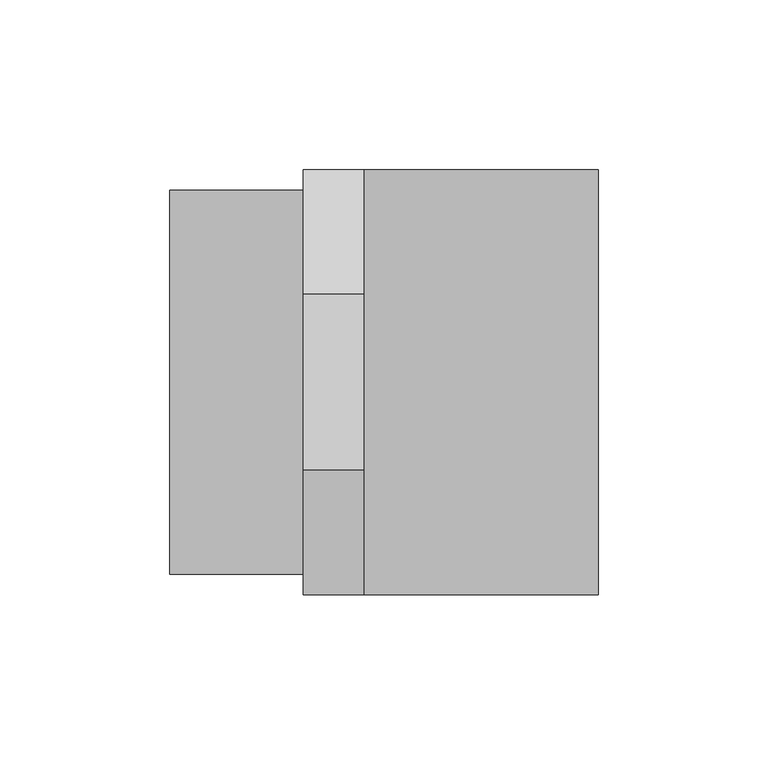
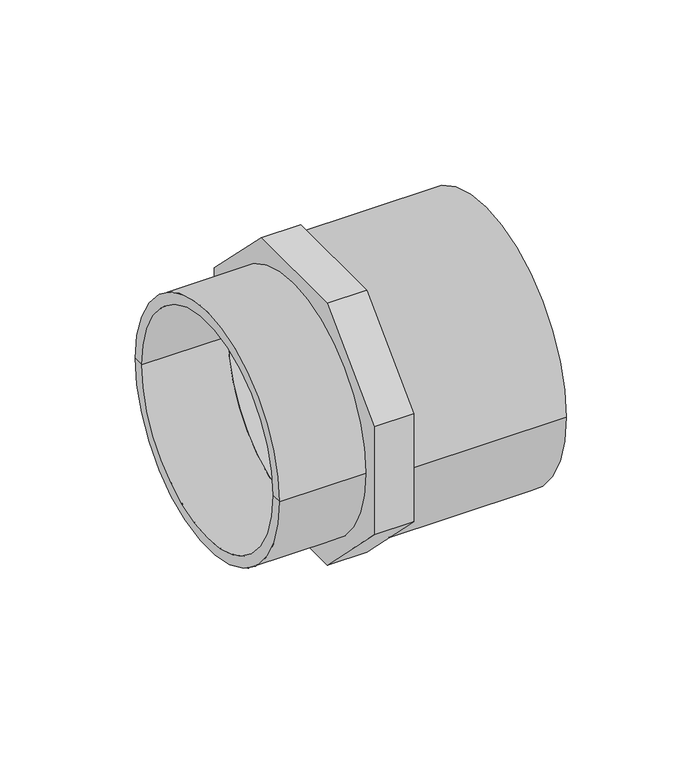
"""IFC4 building model written with IfcOpenShell, lengths in millimetres: pipe fitting geometry, Durapipe_PipeFitting_PVC_MaleThreadedAdaptors : 125 x 110 x G4."""

import ifcopenshell
import ifcopenshell.guid

model = None  # the IFC model being written
_history = None  # IfcOwnerHistory: only IFC2X3 demands one
_inside = {}  # id of a spatial element -> (the spatial element, [elements in it])
_under = {}  # id of a project, library or spatial element -> (it, [spatial elements below it])
_declared = {}  # id of a project -> (the project, [libraries it declares])
_typed = {}  # id of a type object -> (the type object, [elements of that type])
_made_of = {}  # id of a material, layer set ... -> (it, [elements and type objects made of it])


def new_model(schema):
    """Start an empty IFC model of exactly this schema.

    Asked for "IFC4X3", IfcOpenShell would pick the latest addendum, in which some entities
    have other attributes; the version numbers below select the first issue.
    IFC2X3 requires an IfcOwnerHistory on every rooted entity: one is made here for all.
    """
    global model, _history
    if schema == "IFC4X3":
        model = ifcopenshell.file(schema_version=(4, 3, 0, 0))
    else:
        model = ifcopenshell.file(schema=schema)
    _inside.clear()
    _under.clear()
    _declared.clear()
    _typed.clear()
    _made_of.clear()
    _history = None
    if model.schema == "IFC2X3":
        org = make("IfcOrganization", Name="unknown")
        user = make(
            "IfcPersonAndOrganization",
            ThePerson=make("IfcPerson", FamilyName="unknown"),
            TheOrganization=org,
        )
        app = make(
            "IfcApplication",
            ApplicationDeveloper=org,
            Version="unknown",
            ApplicationFullName="unknown",
            ApplicationIdentifier="unknown",
        )
        _history = make(
            "IfcOwnerHistory",
            OwningUser=user,
            OwningApplication=app,
            ChangeAction="ADDED",
            CreationDate=0,
        )
    return model


def make(cls, **values):
    """One entity of the class cls with the attributes given. An attribute that is None is left unset."""
    return model.create_entity(
        cls, **{name: value for name, value in values.items() if value is not None}
    )


def rooted(cls, **values):
    """An entity with a GlobalId (a new one), such as an element, a storey or a relation."""
    return make(cls, GlobalId=ifcopenshell.guid.new(), OwnerHistory=_history, **values)


def si_unit(unit_type, name, prefix=None):
    """IfcSIUnit, for example si_unit("LENGTHUNIT", "METRE", prefix="MILLI")."""
    return make("IfcSIUnit", UnitType=unit_type, Prefix=prefix, Name=name)


def assignment(units):
    """IfcUnitAssignment: the units of a project."""
    return None if units is None else make("IfcUnitAssignment", Units=units)


def point(xyz):
    """IfcCartesianPoint."""
    return None if xyz is None else make("IfcCartesianPoint", Coordinates=xyz)


def direction(xyz):
    """IfcDirection."""
    return None if xyz is None else make("IfcDirection", DirectionRatios=xyz)


def frame(location, z_axis=None, x_axis=None):
    """IfcAxis2Placement3D, a coordinate frame: its origin and axes. An axis left out is left unset."""
    return make(
        "IfcAxis2Placement3D",
        Location=point(location),
        Axis=direction(z_axis),
        RefDirection=direction(x_axis),
    )


def frame_2d(location, x_axis=None):
    """IfcAxis2Placement2D, a coordinate frame in the plane: its origin and x axis."""
    return make(
        "IfcAxis2Placement2D", Location=point(location), RefDirection=direction(x_axis)
    )


def origin():
    """The frame at (0, 0, 0) with its axes left unset."""
    return frame((0.0, 0.0, 0.0))


def origin_2d():
    """The frame at (0, 0) in the plane with its x axis left unset."""
    return frame_2d((0.0, 0.0))


def place(relative_to, where):
    """IfcLocalPlacement: puts the frame where relative to a parent placement (None: the world)."""
    return make(
        "IfcLocalPlacement", PlacementRelTo=relative_to, RelativePlacement=where
    )


def context(
    kind, dimensions, precision=None, world=None, true_north=None, identifier=None
):
    """IfcGeometricRepresentationContext, for example the 3D "Model" context."""
    return make(
        "IfcGeometricRepresentationContext",
        ContextIdentifier=identifier,
        ContextType=kind,
        CoordinateSpaceDimension=dimensions,
        Precision=precision,
        WorldCoordinateSystem=world,
        TrueNorth=true_north,
    )


def project(units=None, contexts=None):
    """IfcProject with its units and contexts."""
    return rooted(
        "IfcProject",
        Name="project",
        RepresentationContexts=contexts,
        UnitsInContext=assignment(units),
    )


def spatial(cls, under=None, at=None, **own):
    """A site, building, storey or space (cls), placed at a placement, below another one or the project."""
    s = rooted(cls, ObjectPlacement=at, **own)
    if under is not None:
        _under.setdefault(under.id(), (under, []))[1].append(s)
    return s


def polyline(points):
    """IfcPolyline through the points."""
    return make("IfcPolyline", Points=[point(p) for p in points])


def circle_curve(where, radius):
    """IfcCircle in the frame where."""
    return make("IfcCircle", Position=where, Radius=radius)


def trimmed(basis, trim1, trim2, sense, master):
    """IfcTrimmedCurve: the piece of a basis curve between two trims."""
    return make(
        "IfcTrimmedCurve",
        BasisCurve=basis,
        Trim1=trim1,
        Trim2=trim2,
        SenseAgreement=sense,
        MasterRepresentation=master,
    )


def segment(curve, same_sense, transition):
    """IfcCompositeCurveSegment."""
    return make(
        "IfcCompositeCurveSegment",
        Transition=transition,
        SameSense=same_sense,
        ParentCurve=curve,
    )


def composite_curve(segments, self_intersect=None):
    """IfcCompositeCurve: segments joined end to end."""
    return make("IfcCompositeCurve", Segments=segments, SelfIntersect=self_intersect)


def outline(outer, holes=None, kind="AREA"):
    """IfcArbitraryClosedProfileDef: a profile drawn as a closed curve; with holes, ...WithVoids."""
    if holes is None:
        return make("IfcArbitraryClosedProfileDef", ProfileType=kind, OuterCurve=outer)
    return make(
        "IfcArbitraryProfileDefWithVoids",
        ProfileType=kind,
        OuterCurve=outer,
        InnerCurves=holes,
    )


def extrude(swept, where, along, depth):
    """IfcExtrudedAreaSolid: the profile swept, set in the frame where, extruded along a direction by depth."""
    return make(
        "IfcExtrudedAreaSolid",
        SweptArea=swept,
        Position=where,
        ExtrudedDirection=direction(along),
        Depth=depth,
    )


def shape(context_of_items, identifier, shape_type, items):
    """IfcShapeRepresentation: the items that make up one representation, for example the "Body"."""
    return make(
        "IfcShapeRepresentation",
        ContextOfItems=context_of_items,
        RepresentationIdentifier=identifier,
        RepresentationType=shape_type,
        Items=items,
    )


def source(mapping_origin, context_of_items, identifier, shape_type, items):
    """IfcRepresentationMap: a shape defined once, which mapped items show again and again."""
    return make(
        "IfcRepresentationMap",
        MappingOrigin=mapping_origin,
        MappedRepresentation=shape(context_of_items, identifier, shape_type, items),
    )


def transform(
    local_origin,
    x_axis=None,
    y_axis=None,
    z_axis=None,
    scale=None,
    scale2=None,
    scale3=None,
    uniform=True,
):
    """IfcCartesianTransformationOperator3D, or its non-uniform kind. x_axis, y_axis, z_axis: its Axis1, 2, 3."""
    if uniform:
        return make(
            "IfcCartesianTransformationOperator3D",
            Axis1=direction(x_axis),
            Axis2=direction(y_axis),
            LocalOrigin=point(local_origin),
            Scale=scale,
            Axis3=direction(z_axis),
        )
    return make(
        "IfcCartesianTransformationOperator3DnonUniform",
        Axis1=direction(x_axis),
        Axis2=direction(y_axis),
        LocalOrigin=point(local_origin),
        Scale=scale,
        Axis3=direction(z_axis),
        Scale2=scale2,
        Scale3=scale3,
    )


def mapped(mapping_source, mapping_target):
    """IfcMappedItem: shows the shape of a source again, moved by a transform."""
    return make(
        "IfcMappedItem", MappingSource=mapping_source, MappingTarget=mapping_target
    )


def made_of(thing, what):
    """Note that an element or type object is made of a material, layer set ...; save() writes the relation."""
    if what is not None:
        _made_of.setdefault(what.id(), (what, []))[1].append(thing)
    return thing


def element(
    cls,
    number,
    at=None,
    inside=None,
    cuts=None,
    type_object=None,
    material=None,
    context=None,
    identifier="Body",
    shape_type=None,
    held_by="IfcProductDefinitionShape",
    body=None,
    shapes=None,
    **own,
):
    """One element of the class cls, such as IfcWall. Its Tag is "e" and its number.

    at: its placement. inside: the storey or other place that contains it. cuts: it is an
    opening in that element (IfcRelVoidsElement). A single representation is given by context,
    identifier, shape_type and body (its items); several are given by shapes. held_by: the class
    of the entity that holds the representations. save() writes the other relations.
    """
    e = rooted(cls, Tag="e%d" % number, ObjectPlacement=at, **own)
    if body is not None:
        shapes = [shape(context, identifier, shape_type, body)]
    if shapes is not None:
        e.Representation = make(held_by, Representations=shapes)
    if inside is not None:
        _inside.setdefault(inside.id(), (inside, []))[1].append(e)
    if cuts is not None:
        rooted(
            "IfcRelVoidsElement", RelatingBuildingElement=cuts, RelatedOpeningElement=e
        )
    if type_object is not None:
        _typed.setdefault(type_object.id(), (type_object, []))[1].append(e)
    return made_of(e, material)


def aggregate(whole, parts):
    """IfcRelAggregates: a whole, such as a stair, and the parts it consists of."""
    return rooted("IfcRelAggregates", RelatingObject=whole, RelatedObjects=parts)


def save(model, path):
    """Write the relations noted so far, then the file.

    IfcRelAggregates (storeys below a building ...), IfcRelContainedInSpatialStructure (elements
    in a storey), IfcRelDefinesByType, IfcRelAssociatesMaterial and IfcRelDeclares: one each for
    every whole, place, type object, material and project.
    """
    for whole, parts in _under.values():
        aggregate(whole, parts)
    for where, things in _inside.values():
        rooted(
            "IfcRelContainedInSpatialStructure",
            RelatedElements=things,
            RelatingStructure=where,
        )
    for kind, things in _typed.values():
        rooted("IfcRelDefinesByType", RelatedObjects=things, RelatingType=kind)
    for what, things in _made_of.values():
        rooted("IfcRelAssociatesMaterial", RelatedObjects=things, RelatingMaterial=what)
    for by, libraries in _declared.values():
        rooted("IfcRelDeclares", RelatingContext=by, RelatedDefinitions=libraries)
    model.write(path)


def plane_surface(at):
    """IfcPlane: the flat surface through the origin of the frame at, square to its z axis."""
    return make("IfcPlane", Position=at)


def cylinder_surface(at, radius):
    """IfcCylindricalSurface: all points at the distance radius from the z axis of the frame at."""
    return make("IfcCylindricalSurface", Position=at, Radius=radius)


def revolved_surface(curve, axis_point, axis_direction):
    """IfcSurfaceOfRevolution: the curve turned about the line through axis_point along axis_direction."""
    return make(
        "IfcSurfaceOfRevolution",
        SweptCurve=make("IfcArbitraryOpenProfileDef", ProfileType="CURVE", Curve=curve),
        AxisPosition=make("IfcAxis1Placement", Location=point(axis_point), Axis=direction(axis_direction)),
    )


def advanced_brep(points, edges, surfaces, faces):
    """IfcAdvancedBrep: a solid bounded by faces that lie on surfaces and meet in shared edges.

    An edge is (start, end): straight between two places in points (the first is 0);
    or (start, end, curve); or (start, end, curve, False) where it runs against its curve.
    A face is (place in surfaces, loops), or (place, loops, False) where it looks against
    its surface's normal. A loop lists edges by number (the first is 1), with a minus sign
    where the edge is run from its end to its start. The first loop is the outer one.
    """
    corners = [point(p) for p in points]
    vertices = [make("IfcVertexPoint", VertexGeometry=c) for c in corners]
    made = []
    for start, end, *more in edges:
        made.append(
            make(
                "IfcEdgeCurve",
                EdgeStart=vertices[start],
                EdgeEnd=vertices[end],
                EdgeGeometry=more[0] if more else make("IfcPolyline", Points=[corners[start], corners[end]]),
                SameSense=more[1] if len(more) > 1 else True,
            )
        )
    hull = []
    for where, loops, *sense in faces:
        bounds = []
        for j, loop in enumerate(loops):
            ring = [make("IfcOrientedEdge", EdgeElement=made[abs(k) - 1], Orientation=k > 0) for k in loop]
            bounds.append(
                make(
                    "IfcFaceOuterBound" if j == 0 else "IfcFaceBound",
                    Bound=make("IfcEdgeLoop", EdgeList=ring),
                    Orientation=True,
                )
            )
        hull.append(make("IfcAdvancedFace", Bounds=bounds, FaceSurface=surfaces[where], SameSense=sense[0] if sense else True))
    return make("IfcAdvancedBrep", Outer=make("IfcClosedShell", CfsFaces=hull))


def pipe_fitting_5c9d9577(model_context):
    return source(origin(), model_context, "Body", "SolidModel", [
        extrude(outline(polyline([(62.5, 25.8883476), (62.5, -25.8883476), (25.8883476, -62.5), (-25.8883476, -62.5), (-62.5, -25.8883476), (-62.5, 25.8883476), (-25.8883476, 62.5), (25.8883476, 62.5), (62.5, 25.8883476)]), holes=[composite_curve([segment(trimmed(circle_curve(origin_2d(), 51.5), [point((51.5, 0.0))], [point((-51.5, 0.0))], True, "CARTESIAN"), True, "CONTINUOUS"), segment(trimmed(circle_curve(origin_2d(), 51.5), [point((-51.5, 0.0))], [point((51.5, 0.0))], True, "CARTESIAN"), True, "CONTINUOUS")], self_intersect=False)]), frame((-17.8, 0.0, 0.0), z_axis=(1.0, 0.0, 0.0), x_axis=(0.0, 1.0, 0.0)), (0.0, 0.0, 1.0), 17.8),
        advanced_brep(
        [(0.0, -62.5, 0.0), (0.0, 62.5, 0.0), (69.0, 62.5, 0.0), (69.0, -62.5, 0.0), (69.0, 55.0, 0.0), (69.0, -55.0, 0.0), (0.0, 0.0, 0.0), (8.0, 55.0, 0.0), (8.0, -55.0, 0.0), (8.0, 0.0, 0.0)],
        [
            (0, 1, circle_curve(frame((0.0, 0.0, 0.0), z_axis=(1.0, 0.0, 0.0), x_axis=(0.0, 1.0, 0.0)), 62.5)),
            (1, 2),
            (2, 3, circle_curve(frame((69.0, 0.0, 0.0), z_axis=(-1.0, 0.0, 0.0), x_axis=(0.0, 1.0, 0.0)), 62.5)),
            (3, 0),
            (1, 0, circle_curve(frame((0.0, 0.0, 0.0), z_axis=(1.0, 0.0, 0.0), x_axis=(0.0, 1.0, 0.0)), 62.5)),
            (3, 2, circle_curve(frame((69.0, 0.0, 0.0), z_axis=(-1.0, 0.0, 0.0), x_axis=(0.0, 1.0, 0.0)), 62.5)),
            (2, 4),
            (4, 5, circle_curve(frame((69.0, 0.0, 0.0), z_axis=(-1.0, 0.0, 0.0), x_axis=(0.0, 1.0, 0.0)), 55.0)),
            (5, 3),
            (5, 4, circle_curve(frame((69.0, 0.0, 0.0), z_axis=(-1.0, 0.0, 0.0), x_axis=(0.0, 1.0, 0.0)), 55.0)),
            (0, 6),
            (6, 1),
            (7, 8, circle_curve(frame((8.0, 0.0, 0.0), z_axis=(-1.0, 0.0, 0.0), x_axis=(0.0, 1.0, 0.0)), 55.0)),
            (8, 5),
            (4, 7),
            (8, 7, circle_curve(frame((8.0, 0.0, 0.0), z_axis=(-1.0, 0.0, 0.0), x_axis=(0.0, 1.0, 0.0)), 55.0)),
            (7, 9),
            (9, 8),
        ],
        [
            cylinder_surface(frame((470.4572068, 0.0, 0.0), z_axis=(-1.0, 0.0, 0.0), x_axis=(0.0, 1.0, 0.0)), 62.5),
            plane_surface(frame((69.0, 0.0, 0.0), z_axis=(1.0, 0.0, 0.0), x_axis=(0.0, 1.0, 0.0))),
            plane_surface(frame((0.0, 0.0, 0.0), z_axis=(-1.0, 0.0, 0.0), x_axis=(0.0, 1.0, 0.0))),
            revolved_surface(polyline([(8.0, 55.0, 0.0), (69.0, 55.0, 0.0)]), (82.5575137, 0.0, 0.0), (-1.0, 0.0, 0.0)),
            plane_surface(frame((8.0, 0.0, 0.0), z_axis=(1.0, 0.0, 0.0), x_axis=(0.0, 1.0, 0.0))),
        ],
        [
            (0, [[1, 2, 3, 4]]),
            (0, [[-2, 5, -4, 6]]),
            (1, [[-3, 7, 8, 9]]),
            (1, [[-6, -9, 10, -7]]),
            (2, [[-1, 11, 12]]),
            (2, [[-5, -12, -11]]),
            (3, [[13, 14, -8, 15]]),
            (3, [[16, -15, -10, -14]]),
            (4, [[-13, 17, 18]]),
            (4, [[-16, -18, -17]]),
        ],
    ),
        advanced_brep(
        [(-17.8, -51.5, 0.0), (-17.8, 51.5, 0.0), (-57.0, 51.5, 0.0), (-57.0, -51.5, 0.0), (-17.8, -56.5, 0.0), (-17.8, 56.5, 0.0), (-57.0, -56.5, 0.0), (-57.0, 56.5, 0.0)],
        [
            (0, 1, circle_curve(frame((-17.8, 0.0, 0.0), z_axis=(1.0, 0.0, 0.0), x_axis=(0.0, 1.0, 0.0)), 51.5)),
            (1, 2),
            (2, 3, circle_curve(frame((-57.0, 0.0, 0.0), z_axis=(-1.0, 0.0, 0.0), x_axis=(0.0, 1.0, 0.0)), 51.5)),
            (3, 0),
            (1, 0, circle_curve(frame((-17.8, 0.0, 0.0), z_axis=(1.0, 0.0, 0.0), x_axis=(0.0, 1.0, 0.0)), 51.5)),
            (3, 2, circle_curve(frame((-57.0, 0.0, 0.0), z_axis=(-1.0, 0.0, 0.0), x_axis=(0.0, 1.0, 0.0)), 51.5)),
            (4, 5, circle_curve(frame((-17.8, 0.0, 0.0), z_axis=(1.0, 0.0, 0.0), x_axis=(0.0, 1.0, 0.0)), 56.5)),
            (5, 1),
            (0, 4),
            (5, 4, circle_curve(frame((-17.8, 0.0, 0.0), z_axis=(1.0, 0.0, 0.0), x_axis=(0.0, 1.0, 0.0)), 56.5)),
            (6, 7, circle_curve(frame((-57.0, 0.0, 0.0), z_axis=(1.0, 0.0, 0.0), x_axis=(0.0, 1.0, 0.0)), 56.5)),
            (7, 5),
            (4, 6),
            (7, 6, circle_curve(frame((-57.0, 0.0, 0.0), z_axis=(1.0, 0.0, 0.0), x_axis=(0.0, 1.0, 0.0)), 56.5)),
            (2, 7),
            (6, 3),
        ],
        [
            revolved_surface(polyline([(-57.0, 51.5, 0.0), (-17.799999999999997, 51.5, 0.0)]), (-72.0, 0.0, 0.0), (-1.0, 0.0, 0.0)),
            plane_surface(frame((-17.8, 0.0, 0.0), z_axis=(1.0, 0.0, 0.0), x_axis=(0.0, 1.0, 0.0))),
            cylinder_surface(frame((-72.0, 0.0, 0.0), z_axis=(-1.0, 0.0, 0.0), x_axis=(0.0, 1.0, 0.0)), 56.5),
            plane_surface(frame((-57.0, 0.0, 0.0), z_axis=(-1.0, 0.0, 0.0), x_axis=(0.0, 1.0, 0.0))),
        ],
        [
            (0, [[1, 2, 3, 4]]),
            (0, [[5, -4, 6, -2]]),
            (1, [[7, 8, -1, 9]]),
            (1, [[10, -9, -5, -8]]),
            (2, [[11, 12, -7, 13]]),
            (2, [[14, -13, -10, -12]]),
            (3, [[-3, 15, -11, 16]]),
            (3, [[-6, -16, -14, -15]]),
        ],
    ),
    ])


if __name__ == "__main__":
    model = new_model("IFC4")
    model_context = context("Model", 3, world=origin())
    ifc_project = project(units=[si_unit("LENGTHUNIT", "METRE", prefix="MILLI")], contexts=[model_context])
    site = spatial("IfcSite", under=ifc_project)
    building = spatial("IfcBuilding", under=site)
    placement = place(None, origin())
    pipe_fitting_shape = pipe_fitting_5c9d9577(model_context)
    element("IfcPipeFitting", 1, ObjectType="Durapipe_PipeFitting_PVC_MaleThreadedAdaptors : 125 x 110 x G4", at=placement, inside=building, context=model_context, shape_type="MappedRepresentation", body=[
        mapped(pipe_fitting_shape, transform((0.0, 0.0, 0.0), x_axis=(1.0, 0.0, 0.0), y_axis=(0.0, 1.0, 0.0), z_axis=(0.0, 0.0, 1.0))),
    ])
    save(model, "model.ifc")
